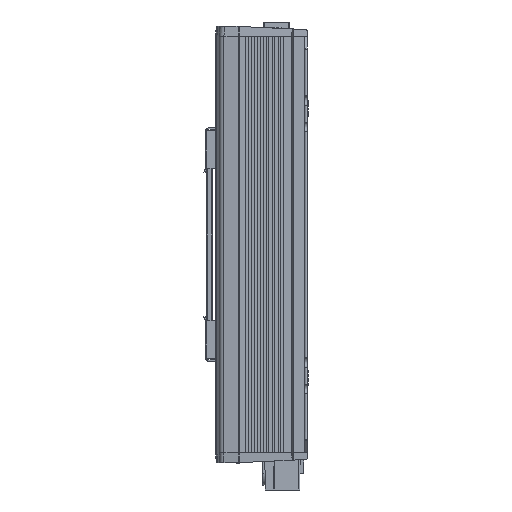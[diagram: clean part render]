
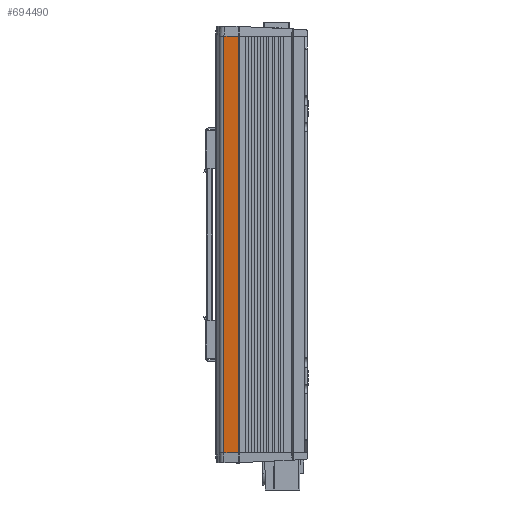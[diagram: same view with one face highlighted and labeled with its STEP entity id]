
A CAD part, left-side view. The second image highlights one B-rep face of the part: STEP entity #694490.
In plain terms, the highlighted planar face has unit normal (-0.995, 0.104, 0).
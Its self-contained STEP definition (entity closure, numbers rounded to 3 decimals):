
#676610=CARTESIAN_POINT('',(1975.16,76.808,373.756)
);
#676620=VERTEX_POINT('',#676610);
#676650=CARTESIAN_POINT('',(1967.087,0.,373.756));
#676660=DIRECTION('',(-0.105,-0.995,0.));
#676670=VECTOR('',#676660,1.);
#676680=LINE('',#676650,#676670);
#676690=CARTESIAN_POINT('',(1976.316,87.804,373.756
));
#676700=VERTEX_POINT('',#676690);
#676710=EDGE_CURVE('',#676700,#676620,#676680,.T.);
#685020=CARTESIAN_POINT('',(1976.316,87.804,55.756)
);
#685030=VERTEX_POINT('',#685020);
#685060=CARTESIAN_POINT('',(1967.087,0.,55.756));
#685070=DIRECTION('',(0.105,0.995,0.));
#685080=VECTOR('',#685070,1.);
#685090=LINE('',#685060,#685080);
#685100=CARTESIAN_POINT('',(1975.16,76.808,55.756))
;
#685110=VERTEX_POINT('',#685100);
#685120=EDGE_CURVE('',#685110,#685030,#685090,.T.);
#694240=CARTESIAN_POINT('',(1976.316,87.804,373.756
));
#694250=DIRECTION('',(0.,0.,-1.));
#694260=VECTOR('',#694250,1.);
#694270=LINE('',#694240,#694260);
#694280=EDGE_CURVE('',#676700,#685030,#694270,.T.);
#694330=CARTESIAN_POINT('',(1976.603,90.531,122.9));
#694340=DIRECTION('',(0.995,-0.105,0.));
#694350=DIRECTION('',(0.105,0.995,0.));
#694360=AXIS2_PLACEMENT_3D('',#694330,#694340,#694350);
#694370=PLANE('',#694360);
#694380=ORIENTED_EDGE('',*,*,#676710,.F.);
#694390=CARTESIAN_POINT('',(1975.16,76.808,0.));
#694400=DIRECTION('',(0.,0.,1.));
#694410=VECTOR('',#694400,1.);
#694420=LINE('',#694390,#694410);
#694430=EDGE_CURVE('',#685110,#676620,#694420,.T.);
#694440=ORIENTED_EDGE('',*,*,#694430,.T.);
#694450=ORIENTED_EDGE('',*,*,#685120,.F.);
#694460=ORIENTED_EDGE('',*,*,#694280,.T.);
#694470=EDGE_LOOP('',(#694460,#694450,#694440,#694380));
#694480=FACE_OUTER_BOUND('',#694470,.T.);
#694490=ADVANCED_FACE('',(#694480),#694370,.F.);
